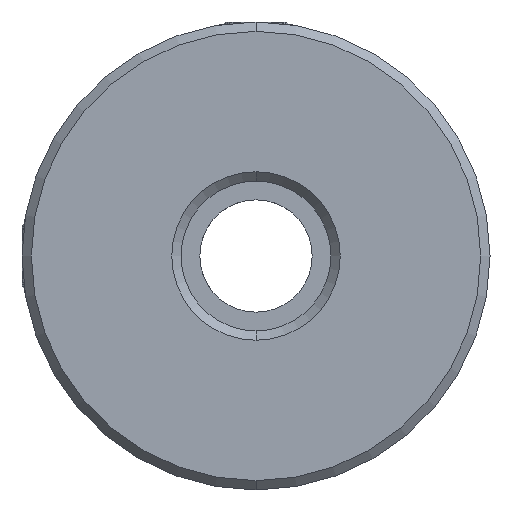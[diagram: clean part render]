
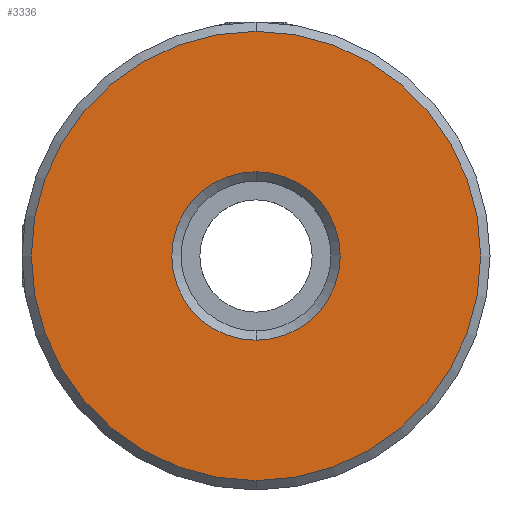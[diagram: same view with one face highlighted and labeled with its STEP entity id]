
A CAD part, front view. The second image highlights one B-rep face of the part: STEP entity #3336.
In plain terms, the highlighted planar face has unit normal (0, -1, 0).
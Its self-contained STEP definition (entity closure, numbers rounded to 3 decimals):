
#294 = CARTESIAN_POINT ( 'NONE',  ( -10.188, -0.277, 0.046 ) ) ;
#328 = DIRECTION ( 'NONE',  ( 0., 0., 1. ) ) ;
#407 = EDGE_CURVE ( 'NONE', #451, #715, #3078, .T. ) ;
#451 = VERTEX_POINT ( 'NONE', #825 ) ;
#524 = DIRECTION ( 'NONE',  ( 0., 0., 1. ) ) ;
#550 = DIRECTION ( 'NONE',  ( 0., 1., 0. ) ) ;
#573 = DIRECTION ( 'NONE',  ( 0., 0., 1. ) ) ;
#715 = VERTEX_POINT ( 'NONE', #791 ) ;
#791 = CARTESIAN_POINT ( 'NONE',  ( -10.188, -0.277, 4.546 ) ) ;
#825 = CARTESIAN_POINT ( 'NONE',  ( -10.188, -0.277, -4.454 ) ) ;
#887 = FACE_BOUND ( 'NONE', #2031, .T. ) ;
#1018 = VERTEX_POINT ( 'NONE', #3637 ) ;
#1086 = DIRECTION ( 'NONE',  ( 0., -1., 0. ) ) ;
#1149 = FACE_OUTER_BOUND ( 'NONE', #3687, .T. ) ;
#1236 = CIRCLE ( 'NONE', #2317, 12. ) ;
#1346 = AXIS2_PLACEMENT_3D ( 'NONE', #2836, #550, #328 ) ;
#1370 = DIRECTION ( 'NONE',  ( 0., 0., 1. ) ) ;
#1562 = EDGE_CURVE ( 'NONE', #715, #451, #3028, .T. ) ;
#1571 = AXIS2_PLACEMENT_3D ( 'NONE', #1910, #2849, #1370 ) ;
#1691 = CARTESIAN_POINT ( 'NONE',  ( -10.188, -0.277, 0.046 ) ) ;
#1785 = ORIENTED_EDGE ( 'NONE', *, *, #3523, .T. ) ;
#1802 = ORIENTED_EDGE ( 'NONE', *, *, #407, .T. ) ;
#1842 = AXIS2_PLACEMENT_3D ( 'NONE', #3669, #1086, #524 ) ;
#1910 = CARTESIAN_POINT ( 'NONE',  ( -10.188, -0.277, 0.046 ) ) ;
#2010 = ORIENTED_EDGE ( 'NONE', *, *, #1562, .T. ) ;
#2031 = EDGE_LOOP ( 'NONE', ( #1802, #2010 ) ) ;
#2186 = ORIENTED_EDGE ( 'NONE', *, *, #3595, .T. ) ;
#2187 = AXIS2_PLACEMENT_3D ( 'NONE', #294, #3164, #573 ) ;
#2317 = AXIS2_PLACEMENT_3D ( 'NONE', #1691, #3359, #2788 ) ;
#2508 = VERTEX_POINT ( 'NONE', #2524 ) ;
#2524 = CARTESIAN_POINT ( 'NONE',  ( -10.188, -0.277, -11.954 ) ) ;
#2788 = DIRECTION ( 'NONE',  ( 0., 0., 1. ) ) ;
#2836 = CARTESIAN_POINT ( 'NONE',  ( -10.188, -0.277, 0.046 ) ) ;
#2849 = DIRECTION ( 'NONE',  ( 0., 1., 0. ) ) ;
#2914 = PLANE ( 'NONE',  #1346 ) ;
#3028 = CIRCLE ( 'NONE', #2187, 4.5 ) ;
#3078 = CIRCLE ( 'NONE', #1571, 4.5 ) ;
#3164 = DIRECTION ( 'NONE',  ( 0., 1., 0. ) ) ;
#3336 = ADVANCED_FACE ( 'NONE', ( #1149, #887 ), #2914, .F. ) ;
#3350 = CIRCLE ( 'NONE', #1842, 12. ) ;
#3359 = DIRECTION ( 'NONE',  ( 0., -1., 0. ) ) ;
#3523 = EDGE_CURVE ( 'NONE', #2508, #1018, #1236, .T. ) ;
#3595 = EDGE_CURVE ( 'NONE', #1018, #2508, #3350, .T. ) ;
#3637 = CARTESIAN_POINT ( 'NONE',  ( -10.188, -0.277, 12.046 ) ) ;
#3669 = CARTESIAN_POINT ( 'NONE',  ( -10.188, -0.277, 0.046 ) ) ;
#3687 = EDGE_LOOP ( 'NONE', ( #2186, #1785 ) ) ;
